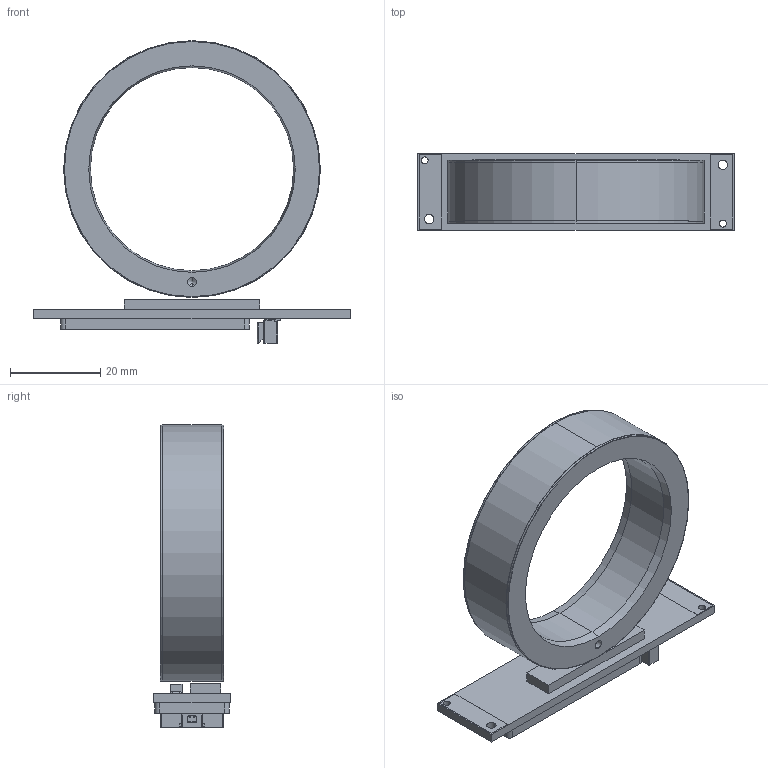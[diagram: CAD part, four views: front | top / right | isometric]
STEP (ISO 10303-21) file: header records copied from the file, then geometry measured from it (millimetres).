
FILE_DESCRIPTION (( 'STEP AP214' ), '1' );
FILE_NAME ('DBRxVx+SAR057.STEP', '2024-02-01T09:34:14', ( '' ), ( '' ), 'SwSTEP 2.0', 'SolidWorks 2022', '' );
FILE_SCHEMA (( 'AUTOMOTIVE_DESIGN' ));
Length unit declared in the file: millimetre
Products named in the file (1): DBRxVx+SAR057
Bounding box: 70 x 17 x 67 mm (x, y, z)
Volume: 17678.5 mm3; surface area: 10184.1 mm2
Topology: 2 solids, 2 shells, 1351 faces, 3716 edges, 2475 vertices
Faces by surface type: plane 1037, bspline 204, cylinder 86, cone 16, torus 4, sphere 4
Entity records: 68645 total; most frequent: CARTESIAN_POINT 24556, ORIENTED_EDGE 7422, DIRECTION 3713, EDGE_CURVE 3711, VERTEX_POINT 2475, B_SPLINE_CURVE_WITH_KNOTS 2368, EDGE_LOOP 1476, UNCERTAINTY_MEASURE_WITH_UNIT 1355
